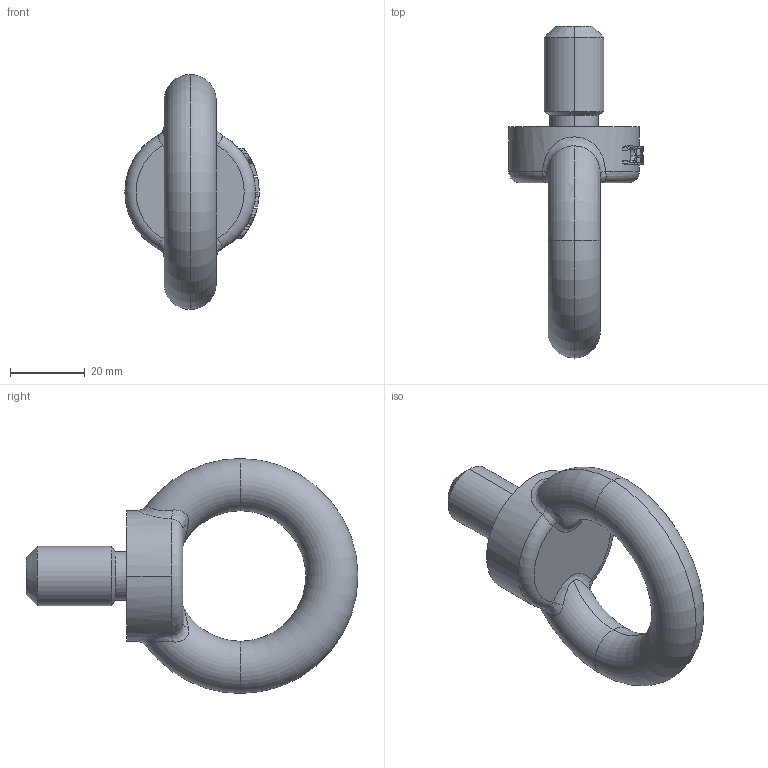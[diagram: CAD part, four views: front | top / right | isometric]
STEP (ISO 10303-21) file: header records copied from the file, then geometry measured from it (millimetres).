
FILE_DESCRIPTION(('STEP AP214'),'1');
FILE_NAME('c80316.stp','2017-03-22T15:07:58',('TraceParts'),('TraceParts S.A.'),'Spatial InterOp 3D',' ',' ');
FILE_SCHEMA(('automotive_design'));
Length unit declared in the file: millimetre
Products named in the file (1): c80316
Bounding box: 36 x 89 x 63 mm (x, y, z)
Volume: 37741.6 mm3; surface area: 9901.9 mm2
Topology: 1 solids, 1 shells, 128 faces, 343 edges, 221 vertices
Faces by surface type: plane 52, bspline 47, cylinder 15, torus 8, cone 6
Entity records: 6138 total; most frequent: CARTESIAN_POINT 2135, ORIENTED_EDGE 682, DIRECTION 513, EDGE_CURVE 341, VERTEX_POINT 221, AXIS2_PLACEMENT_3D 188, LINE 137, VECTOR 137
